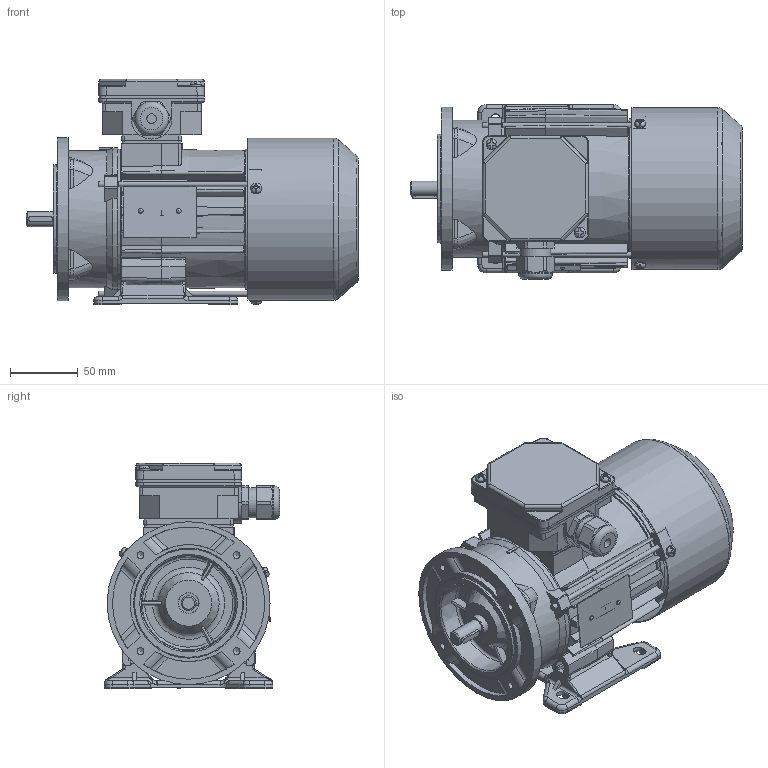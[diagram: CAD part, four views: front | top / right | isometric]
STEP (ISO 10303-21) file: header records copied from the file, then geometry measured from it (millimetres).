
FILE_DESCRIPTION(/* description */ ('Unknown'),/* implementation_level */ '2;1');
FILE_NAME(/* name */ '3SIEL63-6B1',/* time_stamp */ '2021-02-01T14:37:22+01:00',/* author */ ('Unknown'),/* organization */ ('Unknown'),/* preprocessor_version */ 'ST-DEVELOPER v16.7',/* originating_system */ 'Solid Edge',/* authorisation */ 'Unknown');
FILE_SCHEMA (('AUTOMOTIVE_DESIGN {1 0 10303 214 3 1 1}'));
Length unit declared in the file: millimetre
Products named in the file (1): 3SIEL63-6B1
Bounding box: 244.47 x 129 x 166 mm (x, y, z)
Volume: 604569.1 mm3; surface area: 375854.4 mm2
Topology: 1 solids, 1 shells, 2381 faces, 6774 edges, 4397 vertices
Faces by surface type: plane 1211, cylinder 584, cone 267, bspline 157, torus 141, sphere 21
Full cylindrical faces by diameter (mm): 2 x1, 2.4 x2, 3.7 x7, 3.8 x1, 4 x8, 4.5 x3, 4.8 x2, 5 x6, 7 x4, 8 x6, 10.998 x1, 12.897 x1, 13.097 x1, 14.997 x2, 15.4 x2, 18.996 x2, 19.496 x1, 19.996 x1, 20.096 x1, 21.516 x4, 22.3 x1, 25 x1, 28 x2, 28.48 x4, 31 x2, 35 x3, 71.986 x1, 80 x1, 96 x1, 99 x2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
Entity records: 97294 total; most frequent: CARTESIAN_POINT 20970, ORIENTED_EDGE 12862, DIRECTION 11834, EDGE_CURVE 6431, VERTEX_POINT 4270, AXIS2_PLACEMENT_3D 4266, LINE 3302, VECTOR 3302
